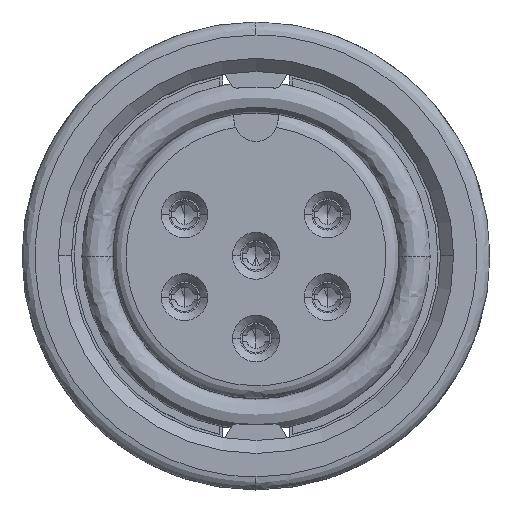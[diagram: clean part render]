
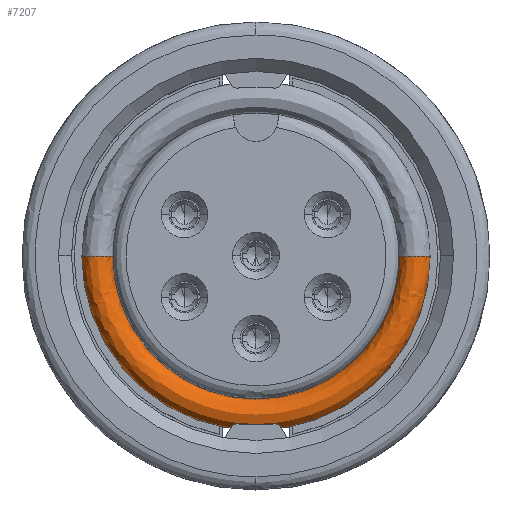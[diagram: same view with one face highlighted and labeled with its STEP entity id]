
A CAD part, top view. The second image highlights one B-rep face of the part: STEP entity #7207.
In plain terms, the highlighted free-form (B-spline) face has degree [3, 3] with [4, 4] control points.
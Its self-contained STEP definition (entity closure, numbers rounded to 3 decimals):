
#887 = CARTESIAN_POINT ( 'NONE',  ( 0., 0., -7.2 ) ) ;
#1066 = DIRECTION ( 'NONE',  ( -1., 0., 0. ) ) ;
#1288 = CARTESIAN_POINT ( 'NONE',  ( 6.7, -13.4, -6. ) ) ;
#1313 = EDGE_CURVE ( 'NONE', #2314, #5721, #10162, .T. ) ;
#2314 = VERTEX_POINT ( 'NONE', #3954 ) ;
#2422 = DIRECTION ( 'NONE',  ( 0., -1., 0. ) ) ;
#2609 = CARTESIAN_POINT ( 'NONE',  ( 5.5, -11., -7.2 ) ) ;
#2638 = AXIS2_PLACEMENT_3D ( 'NONE', #5444, #7870, #11974 ) ;
#2656 = CIRCLE ( 'NONE', #7379, 6.7 ) ;
#2692 = CARTESIAN_POINT ( 'NONE',  ( -6.7, 0., -6. ) ) ;
#3592 = ORIENTED_EDGE ( 'NONE', *, *, #11317, .T. ) ;
#3833 = CARTESIAN_POINT ( 'NONE',  ( 5.5, 0., -7.2 ) ) ;
#3954 = CARTESIAN_POINT ( 'NONE',  ( -5.5, 0., -7.2 ) ) ;
#4083 = CIRCLE ( 'NONE', #10788, 0.6 ) ;
#4501 = DIRECTION ( 'NONE',  ( 0., 0., -1. ) ) ;
#4789 = CARTESIAN_POINT ( 'NONE',  ( 6.7, 0., -7.2 ) ) ;
#5323 = CARTESIAN_POINT ( 'NONE',  ( -6.7, -13.4, -6. ) ) ;
#5444 = CARTESIAN_POINT ( 'NONE',  ( -6.1, 0., -7.2 ) ) ;
#5721 = VERTEX_POINT ( 'NONE', #16616 ) ;
#6180 =( BOUNDED_SURFACE ( )  B_SPLINE_SURFACE ( 3, 3, ( 
 ( #4789, #8971, #15689, #9231 ),
 ( #14295, #1288, #5323, #2692 ),
 ( #6381, #7758, #17086, #11756 ),
 ( #3833, #2609, #15870, #8015 ) ),
 .UNSPECIFIED., .F., .F., .F. ) 
 B_SPLINE_SURFACE_WITH_KNOTS ( ( 4, 4 ),
 ( 4, 4 ),
 ( 0., 1. ),
 ( 0., 1. ),
 .UNSPECIFIED. ) 
 GEOMETRIC_REPRESENTATION_ITEM ( )  RATIONAL_B_SPLINE_SURFACE ( (
 ( 1., 0.333, 0.333, 1.),
 ( 0.333, 0.111, 0.111, 0.333),
 ( 0.333, 0.111, 0.111, 0.333),
 ( 1., 0.333, 0.333, 1.) ) ) 
 REPRESENTATION_ITEM ( '' )  SURFACE ( )  );
#6381 = CARTESIAN_POINT ( 'NONE',  ( 5.5, 0., -6. ) ) ;
#7207 = ADVANCED_FACE ( 'NONE', ( #10207 ), #6180, .T. ) ;
#7379 = AXIS2_PLACEMENT_3D ( 'NONE', #887, #13023, #1066 ) ;
#7407 = EDGE_CURVE ( 'NONE', #7631, #2314, #11525, .T. ) ;
#7631 = VERTEX_POINT ( 'NONE', #11543 ) ;
#7758 = CARTESIAN_POINT ( 'NONE',  ( 5.5, -11., -6. ) ) ;
#7870 = DIRECTION ( 'NONE',  ( 0., -1., 0. ) ) ;
#8015 = CARTESIAN_POINT ( 'NONE',  ( -5.5, 0., -7.2 ) ) ;
#8589 = EDGE_LOOP ( 'NONE', ( #15651, #3592, #12932, #13027 ) ) ;
#8923 = EDGE_CURVE ( 'NONE', #5721, #9102, #2656, .T. ) ;
#8971 = CARTESIAN_POINT ( 'NONE',  ( 6.7, -13.4, -7.2 ) ) ;
#9102 = VERTEX_POINT ( 'NONE', #12052 ) ;
#9231 = CARTESIAN_POINT ( 'NONE',  ( -6.7, 0., -7.2 ) ) ;
#10150 = AXIS2_PLACEMENT_3D ( 'NONE', #11485, #4501, #15409 ) ;
#10162 = CIRCLE ( 'NONE', #2638, 0.6 ) ;
#10207 = FACE_OUTER_BOUND ( 'NONE', #8589, .T. ) ;
#10788 = AXIS2_PLACEMENT_3D ( 'NONE', #15763, #2422, #14282 ) ;
#11317 = EDGE_CURVE ( 'NONE', #9102, #7631, #4083, .T. ) ;
#11485 = CARTESIAN_POINT ( 'NONE',  ( 0., 0., -7.2 ) ) ;
#11525 = CIRCLE ( 'NONE', #10150, 5.5 ) ;
#11543 = CARTESIAN_POINT ( 'NONE',  ( 5.5, 0., -7.2 ) ) ;
#11756 = CARTESIAN_POINT ( 'NONE',  ( -5.5, 0., -6. ) ) ;
#11974 = DIRECTION ( 'NONE',  ( -1., 0., 0. ) ) ;
#12052 = CARTESIAN_POINT ( 'NONE',  ( 6.7, 0., -7.2 ) ) ;
#12932 = ORIENTED_EDGE ( 'NONE', *, *, #7407, .T. ) ;
#13023 = DIRECTION ( 'NONE',  ( 0., 0., 1. ) ) ;
#13027 = ORIENTED_EDGE ( 'NONE', *, *, #1313, .T. ) ;
#14282 = DIRECTION ( 'NONE',  ( 1., 0., 0. ) ) ;
#14295 = CARTESIAN_POINT ( 'NONE',  ( 6.7, 0., -6. ) ) ;
#15409 = DIRECTION ( 'NONE',  ( -1., 0., 0. ) ) ;
#15651 = ORIENTED_EDGE ( 'NONE', *, *, #8923, .T. ) ;
#15689 = CARTESIAN_POINT ( 'NONE',  ( -6.7, -13.4, -7.2 ) ) ;
#15763 = CARTESIAN_POINT ( 'NONE',  ( 6.1, 0., -7.2 ) ) ;
#15870 = CARTESIAN_POINT ( 'NONE',  ( -5.5, -11., -7.2 ) ) ;
#16616 = CARTESIAN_POINT ( 'NONE',  ( -6.7, 0., -7.2 ) ) ;
#17086 = CARTESIAN_POINT ( 'NONE',  ( -5.5, -11., -6. ) ) ;
